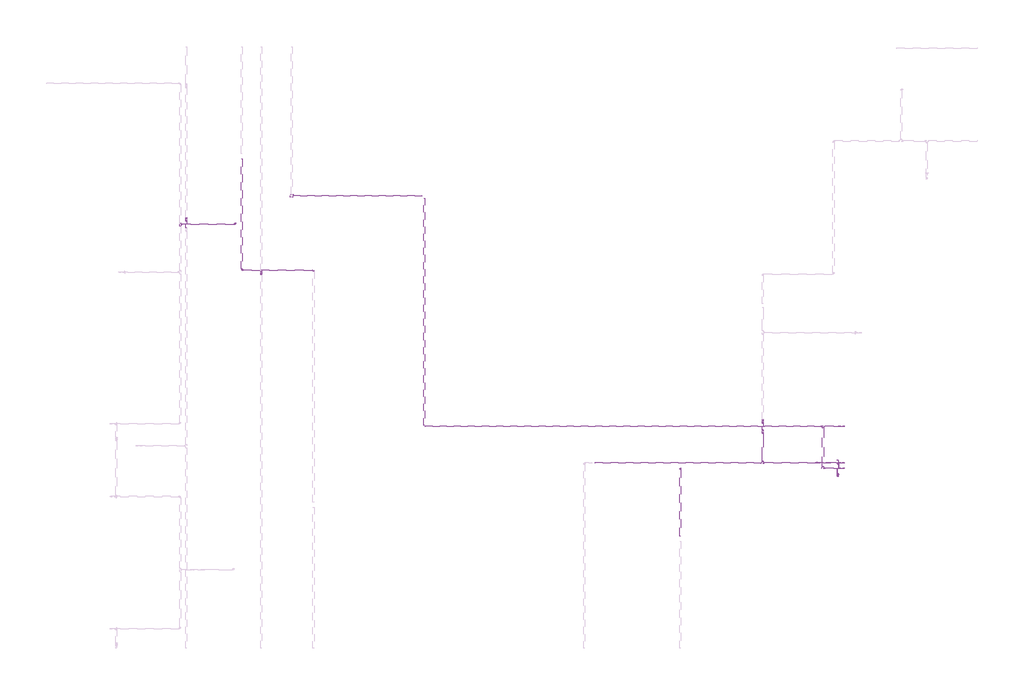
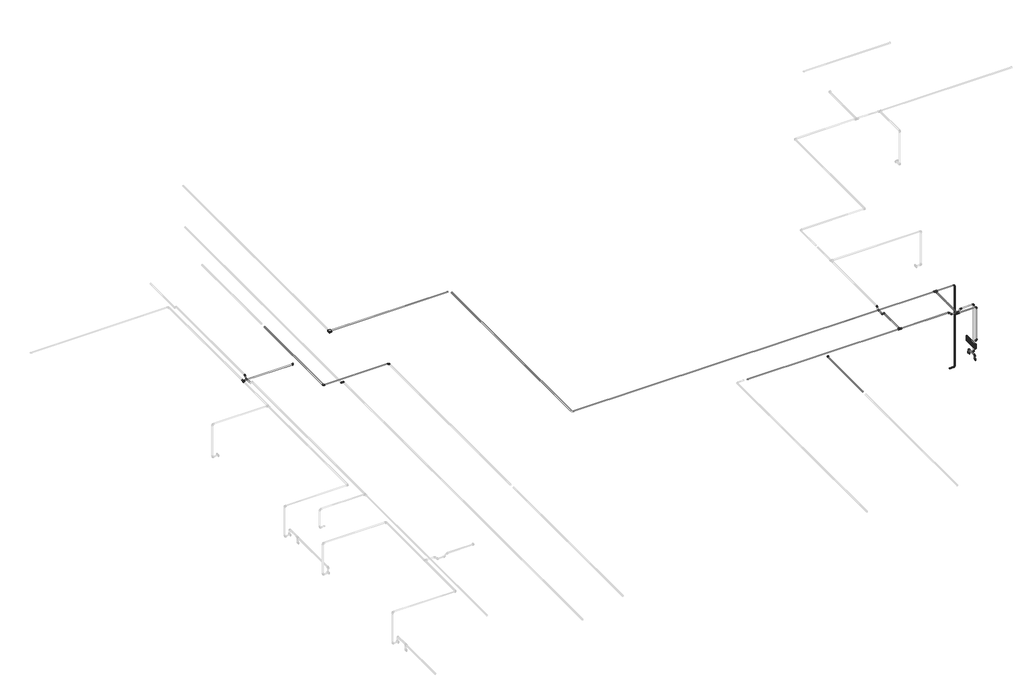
# One storey, part 7 of 40: 33 cable carrier segments, 28 cable carrier fittings, 2 alarms, 2 electric appliances.
"""IFC4 building model written with IfcOpenShell, lengths in millimetres."""

from ifc_helpers import new_model, si_unit, point, frame, frame_2d, origin, place, context, project, spatial, circle_curve, trimmed, segment, composite_curve, outline, extrude, transform, mapped, element, save
from ifc_brep_helpers import plane_surface, cylinder_surface, advanced_brep
from components import alarm_4b7e8fd8, alarm_a2247946, cable_carrier_fitting_69f1a801, cable_carrier_fitting_8122f9af, cable_carrier_fitting_8fd13dfc, electric_appliance_5961a143

model = new_model("IFC4")

# Units and contexts
model_context = context("Model", 3, world=origin())
ifc_project = project(units=[si_unit("LENGTHUNIT", "METRE", prefix="MILLI")], contexts=[model_context])

# Site, building, storey
site = spatial("IfcSite", under=ifc_project)
building = spatial("IfcBuilding", under=site)
storey = spatial("IfcBuildingStorey", under=building, Name="1 этаж", Elevation=0.0)

# Alarms
placement = place(None, origin())
alarm_shape = alarm_4b7e8fd8(model_context)
element("IfcAlarm", 1, ObjectType="RBZ_Оповещатель_Световой_Рубеж_ОПОП1-R3(грань) : ОПОП 1-R3 \"Выход\"", at=placement, inside=storey, context=model_context, shape_type="MappedRepresentation", body=[
    mapped(alarm_shape, transform((-3772.3240021, -5339.803508, 2500.0), x_axis=(0.0, -1.0, 0.0), y_axis=(0.0, 0.0, 1.0), z_axis=(-1.0, 0.0, 0.0))),
])
alarm_2_shape = alarm_a2247946(model_context)
element("IfcAlarm", 2, ObjectType="RBZ_ИзоляторШлейфа_Рубеж_ИЗ-1_прот.R3(плоскость) : ИЗ-1 прот.R3", at=placement, inside=storey, context=model_context, shape_type="MappedRepresentation", body=[
    mapped(alarm_2_shape, transform((-13519.8240031, -480.3629895, 3200.7498553), x_axis=(1.0, 0.0, 0.0), y_axis=(0.0, 1.0, 0.0), z_axis=(0.0, 0.0, 1.0))),
])

# Cable carrier fittings
cable_carrier_fitting_shape = cable_carrier_fitting_69f1a801(model_context)
element("IfcCableCarrierFitting", 3, ObjectType="ADSK_Поворот_Минимальный размер : Неспецифицируемый", at=placement, inside=storey, context=model_context, shape_type="MappedRepresentation", body=[
    mapped(cable_carrier_fitting_shape, transform((-13132.3240021, -1808.8628551, 3189.271248), x_axis=(0.0, 0.9999999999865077, 5.19468800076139e-06), y_axis=(-1.0000000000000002, 0.0, 0.0), z_axis=(0.0, -5.19468800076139e-06, 0.9999999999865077))),
])
element("IfcCableCarrierFitting", 4, ObjectType="ADSK_Поворот_Минимальный размер : Неспецифицируемый", at=placement, inside=storey, context=model_context, shape_type="MappedRepresentation", body=[
    mapped(cable_carrier_fitting_shape, transform((-14409.8240021, -1808.8628551, 3189.271248), x_axis=(0.0, -0.999999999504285, 3.148698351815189e-05), y_axis=(1.0, 0.0, 0.0), z_axis=(0.0, 3.148698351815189e-05, 0.999999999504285))),
])
element("IfcCableCarrierFitting", 5, ObjectType="ADSK_Поворот_Минимальный размер : Неспецифицируемый", at=placement, inside=storey, context=model_context, shape_type="MappedRepresentation", body=[
    mapped(cable_carrier_fitting_shape, transform((-6594.7740026, -5339.8035562, 3189.958066), x_axis=(-0.9999999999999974, 0.0, 7.345449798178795e-08), y_axis=(0.0, -1.0000000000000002, 0.0), z_axis=(7.345449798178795e-08, 0.0, 0.9999999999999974))),
])
element("IfcCableCarrierFitting", 6, ObjectType="ADSK_Поворот_Минимальный размер : Неспецифицируемый", at=placement, inside=storey, context=model_context, shape_type="MappedRepresentation", body=[
    mapped(cable_carrier_fitting_shape, transform((-3675.1241965, -4592.8629895, 1500.0), x_axis=(1.0, 0.0, 0.0), y_axis=(0.0, 0.0, 1.0), z_axis=(0.0, -1.0, 0.0))),
])
element("IfcCableCarrierFitting", 7, ObjectType="ADSK_Поворот_Минимальный размер : Неспецифицируемый", at=placement, inside=storey, context=model_context, shape_type="MappedRepresentation", body=[
    mapped(cable_carrier_fitting_shape, transform((-3675.1241965, -4592.8629895, 3190.0), x_axis=(0.0, 0.0, 1.0), y_axis=(-0.999999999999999, 4.740856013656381e-08, 0.0), z_axis=(-4.740856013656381e-08, -0.999999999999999, 0.0))),
])
element("IfcCableCarrierFitting", 8, ObjectType="ADSK_Поворот_Минимальный размер : Неспецифицируемый", at=placement, inside=storey, context=model_context, shape_type="MappedRepresentation", body=[
    mapped(cable_carrier_fitting_shape, transform((-3675.1241965, -5339.803508, 2500.0), x_axis=(1.0, 0.0, 0.0), y_axis=(0.0, 0.0, 1.0), z_axis=(0.0, -1.0, 0.0))),
])
element("IfcCableCarrierFitting", 9, ObjectType="ADSK_Поворот_Минимальный размер : Неспецифицируемый", at=placement, inside=storey, context=model_context, shape_type="MappedRepresentation", body=[
    mapped(cable_carrier_fitting_shape, transform((-3675.1241965, -5339.803508, 3190.0), x_axis=(0.0, 0.0, 1.0), y_axis=(-0.9999999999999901, -1.409108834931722e-07, 0.0), z_axis=(1.409108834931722e-07, -0.9999999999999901, 0.0))),
])
element("IfcCableCarrierFitting", 10, ObjectType="ADSK_Поворот_Минимальный размер : Неспецифицируемый", at=placement, inside=storey, context=model_context, shape_type="MappedRepresentation", body=[
    mapped(cable_carrier_fitting_shape, transform((-3775.3240021, -5455.3629895, 2300.0), x_axis=(0.0, 0.0, 1.0), y_axis=(0.0, 1.0, 0.0), z_axis=(-1.0, 0.0, 0.0))),
])
element("IfcCableCarrierFitting", 11, ObjectType="ADSK_Поворот_Минимальный размер : Неспецифицируемый", at=placement, inside=storey, context=model_context, shape_type="MappedRepresentation", body=[
    mapped(cable_carrier_fitting_shape, transform((-3775.3240021, -5245.3629895, 2300.0), x_axis=(0.0, 0.0, 1.0), y_axis=(0.0, -1.0, 0.0), z_axis=(1.0, 0.0, 0.0))),
])
element("IfcCableCarrierFitting", 12, ObjectType="ADSK_Поворот_Минимальный размер : Неспецифицируемый", at=placement, inside=storey, context=model_context, shape_type="MappedRepresentation", body=[
    mapped(cable_carrier_fitting_shape, transform((-3675.1241965, -5245.3629895, 2212.0911237), x_axis=(1.0, 0.0, 0.0), y_axis=(0.0, 0.0, 1.0), z_axis=(0.0, -1.0, 0.0))),
])
element("IfcCableCarrierFitting", 13, ObjectType="ADSK_Поворот_Минимальный размер : Неспецифицируемый", at=placement, inside=storey, context=model_context, shape_type="MappedRepresentation", body=[
    mapped(cable_carrier_fitting_shape, transform((-3675.1241965, -5245.3629895, 3187.0), x_axis=(0.0, 0.0, 1.0), y_axis=(-1.0, 0.0, 0.0), z_axis=(0.0, -1.0, 0.0))),
])
element("IfcCableCarrierFitting", 14, ObjectType="ADSK_Поворот_Минимальный размер : Неспецифицируемый", at=placement, inside=storey, context=model_context, shape_type="MappedRepresentation", body=[
    mapped(cable_carrier_fitting_shape, transform((-14524.8240021, -992.9837348, 3166.0), x_axis=(1.0, 0.0, 0.0), y_axis=(0.0, 1.0, 0.0), z_axis=(0.0, 0.0, 1.0))),
])
cable_carrier_fitting_2_shape = cable_carrier_fitting_8122f9af(model_context)
element("IfcCableCarrierFitting", 15, ObjectType="ADSK_Поворот_Минимальный размер : Неспецифицируемый", at=placement, inside=storey, context=model_context, shape_type="MappedRepresentation", body=[
    mapped(cable_carrier_fitting_2_shape, transform((-15402.3240021, -926.4114635, 3130.0), x_axis=(0.0, 1.0, 0.0), y_axis=(0.0, 0.0, 1.0), z_axis=(1.0, 0.0, 0.0))),
])
element("IfcCableCarrierFitting", 16, ObjectType="ADSK_Поворот_Минимальный размер : Неспецифицируемый", at=placement, inside=storey, context=model_context, shape_type="MappedRepresentation", body=[
    mapped(cable_carrier_fitting_2_shape, transform((-3980.7517309, -5245.3629895, 3137.0), x_axis=(-0.7071067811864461, 0.0, -0.7071067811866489), y_axis=(-0.7071067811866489, 0.0, 0.7071067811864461), z_axis=(0.0, 1.0, 0.0))),
])
element("IfcCableCarrierFitting", 17, ObjectType="ADSK_Поворот_Минимальный размер : Неспецифицируемый", at=placement, inside=storey, context=model_context, shape_type="MappedRepresentation", body=[
    mapped(cable_carrier_fitting_2_shape, transform((-4113.8962734, -5245.3629895, 3137.0), x_axis=(-1.0, 0.0, 0.0), y_axis=(0.0, 0.0, 1.0), z_axis=(0.0, 1.0, 0.0))),
])
element("IfcCableCarrierFitting", 18, ObjectType="ADSK_Поворот_Минимальный размер : Неспецифицируемый", at=placement, inside=storey, context=model_context, shape_type="MappedRepresentation", body=[
    mapped(cable_carrier_fitting_2_shape, transform((-5122.3240021, -4526.290702, 3137.0), x_axis=(0.0, -0.707106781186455, -0.7071067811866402), y_axis=(0.0, -0.7071067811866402, 0.707106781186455), z_axis=(-1.0, 0.0, 0.0))),
])
element("IfcCableCarrierFitting", 19, ObjectType="ADSK_Поворот_Минимальный размер : Неспецифицируемый", at=placement, inside=storey, context=model_context, shape_type="MappedRepresentation", body=[
    mapped(cable_carrier_fitting_2_shape, transform((-5122.3240021, -4659.4352445, 3137.0), x_axis=(0.0, -1.0, 0.0), y_axis=(0.0, 0.0, 1.0), z_axis=(-1.0, 0.0, 0.0))),
])
element("IfcCableCarrierFitting", 20, ObjectType="ADSK_Поворот_Минимальный размер : Неспецифицируемый", at=placement, inside=storey, context=model_context, shape_type="MappedRepresentation", body=[
    mapped(cable_carrier_fitting_2_shape, transform((-4163.8962734, -5245.3629895, 3187.0), x_axis=(-0.7071067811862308, 0.0, 0.7071067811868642), y_axis=(-0.7071067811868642, 0.0, -0.7071067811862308), z_axis=(0.0, -1.0, 0.0))),
])
element("IfcCableCarrierFitting", 21, ObjectType="ADSK_Поворот_Минимальный размер : Неспецифицируемый", at=placement, inside=storey, context=model_context, shape_type="MappedRepresentation", body=[
    mapped(cable_carrier_fitting_2_shape, transform((-3930.7517309, -5245.3629895, 3187.0), x_axis=(0.7071067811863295, 0.0, 0.7071067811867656), y_axis=(0.7071067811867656, 0.0, -0.7071067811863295), z_axis=(0.0, 1.0, 0.0))),
])
element("IfcCableCarrierFitting", 22, ObjectType="ADSK_Поворот_Минимальный размер : Неспецифицируемый", at=placement, inside=storey, context=model_context, shape_type="MappedRepresentation", body=[
    mapped(cable_carrier_fitting_2_shape, transform((-5122.3240021, -4709.4352445, 3187.0), x_axis=(0.0, -0.7071067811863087, 0.7071067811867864), y_axis=(0.0, -0.7071067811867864, -0.7071067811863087), z_axis=(1.0, 0.0, 0.0))),
])
element("IfcCableCarrierFitting", 23, ObjectType="ADSK_Поворот_Минимальный размер : Неспецифицируемый", at=placement, inside=storey, context=model_context, shape_type="MappedRepresentation", body=[
    mapped(cable_carrier_fitting_2_shape, transform((-5122.3240021, -4476.290702, 3187.0), x_axis=(0.0, 0.7071067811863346, 0.7071067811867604), y_axis=(0.0, 0.7071067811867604, -0.7071067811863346), z_axis=(-1.0, 0.0, 0.0))),
])
element("IfcCableCarrierFitting", 24, ObjectType="ADSK_Поворот_Минимальный размер : Неспецифицируемый", at=placement, inside=storey, context=model_context, shape_type="MappedRepresentation", body=[
    mapped(cable_carrier_fitting_2_shape, transform((-15402.3240021, -876.4114635, 3180.0), x_axis=(0.0, 0.7071067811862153, 0.7071067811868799), y_axis=(0.0, 0.7071067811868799, -0.7071067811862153), z_axis=(-1.0, 0.0, 0.0))),
])
element("IfcCableCarrierFitting", 25, ObjectType="ADSK_Поворот_Минимальный размер : Неспецифицируемый", at=placement, inside=storey, context=model_context, shape_type="MappedRepresentation", body=[
    mapped(cable_carrier_fitting_2_shape, transform((-14061.8509929, -1828.8628551, 3130.0), x_axis=(0.0, -1.0, 0.0), y_axis=(0.0, 0.0, 1.0), z_axis=(-1.0, 0.0, 0.0))),
])
element("IfcCableCarrierFitting", 26, ObjectType="ADSK_Поворот_Минимальный размер : Неспецифицируемый", at=placement, inside=storey, context=model_context, shape_type="MappedRepresentation", body=[
    mapped(cable_carrier_fitting_2_shape, transform((-14061.8509929, -1878.8628551, 3180.0), x_axis=(0.0, -0.7071067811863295, 0.7071067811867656), y_axis=(0.0, -0.7071067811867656, -0.7071067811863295), z_axis=(1.0, 0.0, 0.0))),
])
cable_carrier_fitting_3_shape = cable_carrier_fitting_8fd13dfc(model_context)
element("IfcCableCarrierFitting", 27, ObjectType="ADSK_Тройник : ПВХ", at=placement, inside=storey, context=model_context, shape_type="MappedRepresentation", body=[
    mapped(cable_carrier_fitting_3_shape, transform((-4047.3240021, -5339.8035562, 3190.0), x_axis=(-1.0, 0.0, 0.0), y_axis=(0.0, -1.0, 0.0), z_axis=(0.0, 0.0, 1.0))),
])
element("IfcCableCarrierFitting", 28, ObjectType="ADSK_Тройник : ПВХ", at=placement, inside=storey, context=model_context, shape_type="MappedRepresentation", body=[
    mapped(cable_carrier_fitting_3_shape, transform((-4047.3240021, -4592.8629733, 3190.0), x_axis=(1.0, 0.0, 0.0), y_axis=(0.0, 1.0, 0.0), z_axis=(0.0, 0.0, 1.0))),
])
element("IfcCableCarrierFitting", 29, ObjectType="ADSK_Тройник : ПВХ", at=placement, inside=storey, context=model_context, shape_type="MappedRepresentation", body=[
    mapped(cable_carrier_fitting_3_shape, transform((-5122.3240021, -5245.3629895, 3187.0), x_axis=(-1.0, 0.0, 0.0), y_axis=(0.0, -1.0, 0.0), z_axis=(0.0, 0.0, 1.0))),
])
element("IfcCableCarrierFitting", 30, ObjectType="ADSK_Тройник : ПВХ", at=placement, inside=storey, context=model_context, shape_type="MappedRepresentation", body=[
    mapped(cable_carrier_fitting_3_shape, transform((-15509.3240021, -992.9837348, 3166.0), x_axis=(0.0, 1.0, 0.0), y_axis=(-1.0, 0.0, 0.0), z_axis=(0.0, 0.0, 1.0))),
])

# Cable carrier segments
element("IfcCableCarrierSegment", 31, ObjectType="Гофрированная труба", at=placement, inside=storey, context=model_context, shape_type="SweptSolid", body=[
    extrude(outline(composite_curve([segment(trimmed(circle_curve(frame_2d((-1808.8628551, 3189.271248)), 10.0), [point((-1798.8628551, 3189.2713))], [point((-1808.8628031, 3179.271248))], False, "CARTESIAN"), True, "CONTINUOUS"), segment(trimmed(circle_curve(frame_2d((-1808.8628551, 3189.271248)), 10.0), [point((-1808.8628031, 3179.271248))], [point((-1818.8628551, 3189.2711961))], False, "CARTESIAN"), True, "CONTINUOUS"), segment(trimmed(circle_curve(frame_2d((-1808.8628551, 3189.271248)), 10.0), [point((-1818.8628551, 3189.2711961))], [point((-1808.862907, 3199.271248))], False, "CARTESIAN"), True, "CONTINUOUS"), segment(trimmed(circle_curve(frame_2d((-1808.8628551, 3189.271248)), 10.0), [point((-1808.862907, 3199.271248))], [point((-1798.8628551, 3189.2713))], False, "CARTESIAN"), True, "CONTINUOUS")], self_intersect=False)), frame((-14388.8240021, 0.0, 0.0), z_axis=(1.0, 0.0, 0.0), x_axis=(0.0, 1.0, 0.0)), (0.0, 0.0, 1.0), 1235.5),
])
element("IfcCableCarrierSegment", 32, ObjectType="Гофрированная труба", at=placement, inside=storey, context=model_context, shape_type="SweptSolid", body=[
    extrude(outline(composite_curve([segment(trimmed(circle_curve(frame_2d((3189.2705868, -14409.8240021)), 10.0), [point((3189.2705868, -14399.8240021))], [point((3199.2705868, -14409.8240021))], False, "CARTESIAN"), True, "CONTINUOUS"), segment(trimmed(circle_curve(frame_2d((3189.2705868, -14409.8240021)), 10.0), [point((3199.2705868, -14409.8240021))], [point((3189.2705868, -14419.8240021))], False, "CARTESIAN"), True, "CONTINUOUS"), segment(trimmed(circle_curve(frame_2d((3189.2705868, -14409.8240021)), 10.0), [point((3189.2705868, -14419.8240021))], [point((3179.2705868, -14409.8240021))], False, "CARTESIAN"), True, "CONTINUOUS"), segment(trimmed(circle_curve(frame_2d((3189.2705868, -14409.8240021)), 10.0), [point((3179.2705868, -14409.8240021))], [point((3189.2705868, -14399.8240021))], False, "CARTESIAN"), True, "CONTINUOUS")], self_intersect=False)), frame((0.0, -1787.8628551, 0.0), z_axis=(0.0, 1.0, 0.0), x_axis=(0.0, 0.0, 1.0)), (0.0, 0.0, 1.0), 1965.9998656),
])
element("IfcCableCarrierSegment", 33, ObjectType="Гофрированная труба", at=placement, inside=storey, context=model_context, shape_type="SweptSolid", body=[
    extrude(outline(composite_curve([segment(trimmed(circle_curve(frame_2d((3189.9998553, -11157.3240021)), 10.0), [point((3189.9998555, -11147.3240021))], [point((3199.9998553, -11157.3240023))], False, "CARTESIAN"), True, "CONTINUOUS"), segment(trimmed(circle_curve(frame_2d((3189.9998553, -11157.3240021)), 10.0), [point((3199.9998553, -11157.3240023))], [point((3189.9998551, -11167.3240021))], False, "CARTESIAN"), True, "CONTINUOUS"), segment(trimmed(circle_curve(frame_2d((3189.9998553, -11157.3240021)), 10.0), [point((3189.9998551, -11167.3240021))], [point((3179.9998553, -11157.3240019))], False, "CARTESIAN"), True, "CONTINUOUS"), segment(trimmed(circle_curve(frame_2d((3189.9998553, -11157.3240021)), 10.0), [point((3179.9998553, -11157.3240019))], [point((3189.9998555, -11147.3240021))], False, "CARTESIAN"), True, "CONTINUOUS")], self_intersect=False)), frame((0.0, -4571.8629733, 0.0), z_axis=(0.0, 1.0, 0.0), x_axis=(0.0, 0.0, 1.0)), (0.0, 0.0, 1.0), 4044.9999838),
])
element("IfcCableCarrierSegment", 34, ObjectType="Гофрированная труба", at=placement, inside=storey, context=model_context, shape_type="SweptSolid", body=[
    extrude(outline(composite_curve([segment(trimmed(circle_curve(frame_2d((-480.3629895, 3189.9998553)), 10.0), [point((-490.3629895, 3189.9998553))], [point((-480.3629895, 3199.9998553))], False, "CARTESIAN"), True, "CONTINUOUS"), segment(trimmed(circle_curve(frame_2d((-480.3629895, 3189.9998553)), 10.0), [point((-480.3629895, 3199.9998553))], [point((-470.3629895, 3189.9998553))], False, "CARTESIAN"), True, "CONTINUOUS"), segment(trimmed(circle_curve(frame_2d((-480.3629895, 3189.9998553)), 10.0), [point((-470.3629895, 3189.9998553))], [point((-480.3629895, 3179.9998553))], False, "CARTESIAN"), True, "CONTINUOUS"), segment(trimmed(circle_curve(frame_2d((-480.3629895, 3189.9998553)), 10.0), [point((-480.3629895, 3179.9998553))], [point((-490.3629895, 3189.9998553))], False, "CARTESIAN"), True, "CONTINUOUS")], self_intersect=False)), frame((-13493.8240031, 0.0, 0.0), z_axis=(1.0, 0.0, 0.0), x_axis=(0.0, 1.0, 0.0)), (0.0, 0.0, 1.0), 2290.000001),
])
element("IfcCableCarrierSegment", 35, ObjectType="Гофрированная труба", at=placement, inside=storey, context=model_context, shape_type="SweptSolid", body=[
    extrude(outline(composite_curve([segment(trimmed(circle_curve(frame_2d((3189.958066, -6594.7740026)), 10.0), [point((3189.9580653, -6584.7740026))], [point((3199.958066, -6594.7740019))], False, "CARTESIAN"), True, "CONTINUOUS"), segment(trimmed(circle_curve(frame_2d((3189.958066, -6594.7740026)), 10.0), [point((3199.958066, -6594.7740019))], [point((3189.9580668, -6604.7740026))], False, "CARTESIAN"), True, "CONTINUOUS"), segment(trimmed(circle_curve(frame_2d((3189.958066, -6594.7740026)), 10.0), [point((3189.9580668, -6604.7740026))], [point((3179.958066, -6594.7740034))], False, "CARTESIAN"), True, "CONTINUOUS"), segment(trimmed(circle_curve(frame_2d((3189.958066, -6594.7740026)), 10.0), [point((3179.958066, -6594.7740034))], [point((3189.9580653, -6584.7740026))], False, "CARTESIAN"), True, "CONTINUOUS")], self_intersect=False)), frame((0.0, -6548.8629895, 0.0), z_axis=(0.0, 1.0, 0.0), x_axis=(0.0, 0.0, 1.0)), (0.0, 0.0, 1.0), 1188.0594332),
])
element("IfcCableCarrierSegment", 36, ObjectType="Гофрированная труба", at=placement, inside=storey, context=model_context, shape_type="AdvancedBrep", body=[
    advanced_brep(
    [(-4077.3240021, -4582.8629733, 3190.0), (-4077.3240023, -4592.8629733, 3200.0), (-4077.3240021, -4602.8629733, 3190.0), (-4077.3240019, -4592.8629733, 3180.0), (-11136.3240021, -4582.8629733, 3189.999855), (-11136.3240019, -4592.8629733, 3179.999855), (-11136.3240021, -4602.8629733, 3189.999855), (-11136.3240023, -4592.8629733, 3199.999855)],
    [
        (0, 1, circle_curve(frame((-4077.3240021, -4592.8629733, 3190.0), z_axis=(1.0, 0.0, 0.0), x_axis=(0.0, 1.0, 0.0)), 10.0)),
        (1, 2, circle_curve(frame((-4077.3240023, -4592.8629733, 3190.0), z_axis=(1.0, 0.0, 0.0), x_axis=(0.0, 1.0, 0.0)), 10.0)),
        (2, 3, circle_curve(frame((-4077.3240021, -4592.8629733, 3190.0), z_axis=(1.0, 0.0, 0.0), x_axis=(0.0, 1.0, 0.0)), 10.0)),
        (3, 0, circle_curve(frame((-4077.3240019, -4592.8629733, 3190.0), z_axis=(1.0, 0.0, 0.0), x_axis=(0.0, 1.0, 0.0)), 10.0)),
        (4, 5, circle_curve(frame((-11136.3240021, -4592.8629733, 3190.0), z_axis=(-1.0, 0.0, 0.0), x_axis=(0.0, 1.0, 0.0)), 10.0)),
        (5, 6, circle_curve(frame((-11136.3240019, -4592.8629733, 3190.0), z_axis=(-1.0, 0.0, 0.0), x_axis=(0.0, 1.0, 0.0)), 10.000145)),
        (6, 7, circle_curve(frame((-11136.3240021, -4592.8629733, 3190.0), z_axis=(-1.0, 0.0, 0.0), x_axis=(0.0, 1.0, 0.0)), 10.0)),
        (7, 4, circle_curve(frame((-11136.3240023, -4592.8629733, 3190.0), z_axis=(-1.0, 0.0, 0.0), x_axis=(0.0, 1.0, 0.0)), 9.999855)),
        (0, 4),
        (7, 1),
        (6, 2),
        (5, 3),
    ],
    [
        plane_surface(frame((-4077.3240019, -4592.8629733, 3180.0), z_axis=(0.9999999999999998, 0.0, 2.0541529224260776e-08), x_axis=(0.0, -1.0, 0.0))),
        plane_surface(frame((-11136.3240019, -4592.8629733, 3179.999855), z_axis=(-0.9999999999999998, 0.0, -2.054155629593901e-08), x_axis=(0.0, -1.0, 0.0))),
        cylinder_surface(frame((-4077.3240021, -4592.8629733, 3190.0), z_axis=(1.0, 0.0, 0.0), x_axis=(0.0, 1.0, 0.0)), 10.0),
    ],
    [
        (0, [[1, 2, 3, 4]]),
        (1, [[5, 6, 7, 8]]),
        (2, [[-1, 9, -8, 10]]),
        (2, [[-2, -10, -7, 11]]),
        (2, [[-3, -11, -6, 12]]),
        (2, [[-4, -12, -5, -9]]),
    ],
),
])
element("IfcCableCarrierSegment", 37, ObjectType="Гофрированная труба", at=placement, inside=storey, context=model_context, shape_type="SweptSolid", body=[
    extrude(outline(composite_curve([segment(trimmed(circle_curve(frame_2d((3190.0, -4047.3240021)), 10.0), [point((3190.0, -4057.3240021))], [point((3180.0, -4047.3240021))], False, "CARTESIAN"), True, "CONTINUOUS"), segment(trimmed(circle_curve(frame_2d((3190.0, -4047.3240021)), 10.0), [point((3180.0, -4047.3240021))], [point((3190.0, -4037.3240021))], False, "CARTESIAN"), True, "CONTINUOUS"), segment(trimmed(circle_curve(frame_2d((3190.0, -4047.3240021)), 10.0), [point((3190.0, -4037.3240021))], [point((3200.0, -4047.3240021))], False, "CARTESIAN"), True, "CONTINUOUS"), segment(trimmed(circle_curve(frame_2d((3190.0, -4047.3240021)), 10.0), [point((3200.0, -4047.3240021))], [point((3190.0, -4057.3240021))], False, "CARTESIAN"), True, "CONTINUOUS")], self_intersect=False)), frame((0.0, -5309.8035562, 0.0), z_axis=(0.0, 1.0, 0.0), x_axis=(0.0, 0.0, 1.0)), (0.0, 0.0, 1.0), 686.940583),
])
element("IfcCableCarrierSegment", 38, ObjectType="Гофрированная труба", at=placement, inside=storey, context=model_context, shape_type="SweptSolid", body=[
    extrude(outline(composite_curve([segment(trimmed(circle_curve(frame_2d((0.0, -10.0)), 10.0), [point((-10.0, -10.0))], [point((0.0, 0.0))], False, "CARTESIAN"), True, "CONTINUOUS"), segment(trimmed(circle_curve(frame_2d((0.0, -10.0)), 10.0), [point((0.0, 0.0))], [point((10.0, -10.0))], False, "CARTESIAN"), True, "CONTINUOUS"), segment(trimmed(circle_curve(frame_2d((0.0, -10.0)), 10.0), [point((10.0, -10.0))], [point((0.0, -20.0))], False, "CARTESIAN"), True, "CONTINUOUS"), segment(trimmed(circle_curve(frame_2d((0.0, -10.0)), 10.0), [point((0.0, -20.0))], [point((-10.0, -10.0))], False, "CARTESIAN"), True, "CONTINUOUS")], self_intersect=False)), frame((-3696.1241965, -4592.8629885, 3180.0), z_axis=(-0.9999999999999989, 4.740855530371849e-08, 0.0), x_axis=(4.740855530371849e-08, 0.9999999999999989, 0.0)), (0.0, 0.0, 1.0), 321.1998056),
])
element("IfcCableCarrierSegment", 39, ObjectType="Гофрированная труба", at=placement, inside=storey, context=model_context, shape_type="SweptSolid", body=[
    extrude(outline(composite_curve([segment(trimmed(circle_curve(frame_2d((-4592.8629895, 1500.0)), 10.0), [point((-4602.8629895, 1500.0))], [point((-4592.8629895, 1510.0))], False, "CARTESIAN"), True, "CONTINUOUS"), segment(trimmed(circle_curve(frame_2d((-4592.8629895, 1500.0)), 10.0), [point((-4592.8629895, 1510.0))], [point((-4582.8629895, 1500.0))], False, "CARTESIAN"), True, "CONTINUOUS"), segment(trimmed(circle_curve(frame_2d((-4592.8629895, 1500.0)), 10.0), [point((-4582.8629895, 1500.0))], [point((-4592.8629895, 1490.0))], False, "CARTESIAN"), True, "CONTINUOUS"), segment(trimmed(circle_curve(frame_2d((-4592.8629895, 1500.0)), 10.0), [point((-4592.8629895, 1490.0))], [point((-4602.8629895, 1500.0))], False, "CARTESIAN"), True, "CONTINUOUS")], self_intersect=False)), frame((-3772.3240021, 0.0, 0.0), z_axis=(1.0, 0.0, 0.0), x_axis=(0.0, 1.0, 0.0)), (0.0, 0.0, 1.0), 76.1998056),
])
element("IfcCableCarrierSegment", 40, ObjectType="Гофрированная труба", at=placement, inside=storey, context=model_context, shape_type="SweptSolid", body=[
    extrude(outline(composite_curve([segment(trimmed(circle_curve(frame_2d((-3675.1241965, -4592.8629895)), 10.0), [point((-3685.1241965, -4592.8629895))], [point((-3675.1241965, -4582.8629895))], False, "CARTESIAN"), True, "CONTINUOUS"), segment(trimmed(circle_curve(frame_2d((-3675.1241965, -4592.8629895)), 10.0), [point((-3675.1241965, -4582.8629895))], [point((-3665.1241965, -4592.8629895))], False, "CARTESIAN"), True, "CONTINUOUS"), segment(trimmed(circle_curve(frame_2d((-3675.1241965, -4592.8629895)), 10.0), [point((-3665.1241965, -4592.8629895))], [point((-3675.1241965, -4602.8629895))], False, "CARTESIAN"), True, "CONTINUOUS"), segment(trimmed(circle_curve(frame_2d((-3675.1241965, -4592.8629895)), 10.0), [point((-3675.1241965, -4602.8629895))], [point((-3685.1241965, -4592.8629895))], False, "CARTESIAN"), True, "CONTINUOUS")], self_intersect=False)), frame((0.0, 0.0, 1521.0), z_axis=(0.0, 0.0, 1.0), x_axis=(1.0, 0.0, 0.0)), (0.0, 0.0, 1.0), 1648.0),
])
element("IfcCableCarrierSegment", 41, ObjectType="Гофрированная труба", at=placement, inside=storey, context=model_context, shape_type="SweptSolid", body=[
    extrude(outline(composite_curve([segment(trimmed(circle_curve(frame_2d((0.0, -10.0)), 10.0), [point((-10.0, -10.0))], [point((0.0, 0.0))], False, "CARTESIAN"), True, "CONTINUOUS"), segment(trimmed(circle_curve(frame_2d((0.0, -10.0)), 10.0), [point((0.0, 0.0))], [point((10.0, -10.0))], False, "CARTESIAN"), True, "CONTINUOUS"), segment(trimmed(circle_curve(frame_2d((0.0, -10.0)), 10.0), [point((10.0, -10.0))], [point((0.0, -20.0))], False, "CARTESIAN"), True, "CONTINUOUS"), segment(trimmed(circle_curve(frame_2d((0.0, -10.0)), 10.0), [point((0.0, -20.0))], [point((-10.0, -10.0))], False, "CARTESIAN"), True, "CONTINUOUS")], self_intersect=False)), frame((-4017.3240021, -5339.8035562, 3180.0), z_axis=(0.9999999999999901, 1.409108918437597e-07, 0.0), x_axis=(1.409108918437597e-07, -0.9999999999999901, 0.0)), (0.0, 0.0, 1.0), 321.1998056),
])
element("IfcCableCarrierSegment", 42, ObjectType="Гофрированная труба", at=placement, inside=storey, context=model_context, shape_type="SweptSolid", body=[
    extrude(outline(composite_curve([segment(trimmed(circle_curve(frame_2d((-5339.803508, 2500.0)), 10.0), [point((-5349.803508, 2500.0))], [point((-5339.803508, 2510.0))], False, "CARTESIAN"), True, "CONTINUOUS"), segment(trimmed(circle_curve(frame_2d((-5339.803508, 2500.0)), 10.0), [point((-5339.803508, 2510.0))], [point((-5329.803508, 2500.0))], False, "CARTESIAN"), True, "CONTINUOUS"), segment(trimmed(circle_curve(frame_2d((-5339.803508, 2500.0)), 10.0), [point((-5329.803508, 2500.0))], [point((-5339.803508, 2490.0))], False, "CARTESIAN"), True, "CONTINUOUS"), segment(trimmed(circle_curve(frame_2d((-5339.803508, 2500.0)), 10.0), [point((-5339.803508, 2490.0))], [point((-5349.803508, 2500.0))], False, "CARTESIAN"), True, "CONTINUOUS")], self_intersect=False)), frame((-3772.3240021, 0.0, 0.0), z_axis=(1.0, 0.0, 0.0), x_axis=(0.0, 1.0, 0.0)), (0.0, 0.0, 1.0), 76.1998056),
])
element("IfcCableCarrierSegment", 43, ObjectType="Гофрированная труба", at=placement, inside=storey, context=model_context, shape_type="SweptSolid", body=[
    extrude(outline(composite_curve([segment(trimmed(circle_curve(frame_2d((-3675.1241965, -5339.803508)), 10.0), [point((-3685.1241965, -5339.803508))], [point((-3675.1241965, -5329.803508))], False, "CARTESIAN"), True, "CONTINUOUS"), segment(trimmed(circle_curve(frame_2d((-3675.1241965, -5339.803508)), 10.0), [point((-3675.1241965, -5329.803508))], [point((-3665.1241965, -5339.803508))], False, "CARTESIAN"), True, "CONTINUOUS"), segment(trimmed(circle_curve(frame_2d((-3675.1241965, -5339.803508)), 10.0), [point((-3665.1241965, -5339.803508))], [point((-3675.1241965, -5349.803508))], False, "CARTESIAN"), True, "CONTINUOUS"), segment(trimmed(circle_curve(frame_2d((-3675.1241965, -5339.803508)), 10.0), [point((-3675.1241965, -5349.803508))], [point((-3685.1241965, -5339.803508))], False, "CARTESIAN"), True, "CONTINUOUS")], self_intersect=False)), frame((0.0, 0.0, 2521.0), z_axis=(0.0, 0.0, 1.0), x_axis=(1.0, 0.0, 0.0)), (0.0, 0.0, 1.0), 648.0),
])
element("IfcCableCarrierSegment", 44, ObjectType="Гофрированная труба", at=placement, inside=storey, context=model_context, shape_type="SweptSolid", body=[
    extrude(outline(composite_curve([segment(trimmed(circle_curve(frame_2d((3137.0, -5122.3240021)), 10.0), [point((3137.0, -5132.3240021))], [point((3127.0, -5122.3240021))], False, "CARTESIAN"), True, "CONTINUOUS"), segment(trimmed(circle_curve(frame_2d((3137.0, -5122.3240021)), 10.0), [point((3127.0, -5122.3240021))], [point((3137.0, -5112.3240021))], False, "CARTESIAN"), True, "CONTINUOUS"), segment(trimmed(circle_curve(frame_2d((3137.0, -5122.3240021)), 10.0), [point((3137.0, -5112.3240021))], [point((3147.0, -5122.3240021))], False, "CARTESIAN"), True, "CONTINUOUS"), segment(trimmed(circle_curve(frame_2d((3137.0, -5122.3240021)), 10.0), [point((3147.0, -5122.3240021))], [point((3137.0, -5132.3240021))], False, "CARTESIAN"), True, "CONTINUOUS")], self_intersect=False)), frame((0.0, -4650.1509733, 0.0), z_axis=(0.0, 1.0, 0.0), x_axis=(0.0, 0.0, 1.0)), (0.0, 0.0, 1.0), 114.576),
])
element("IfcCableCarrierSegment", 45, ObjectType="Гофрированная труба", at=placement, inside=storey, context=model_context, shape_type="SweptSolid", body=[
    extrude(outline(composite_curve([segment(trimmed(circle_curve(frame_2d((2300.0, -3775.3240021)), 10.0), [point((2300.0, -3765.3240021))], [point((2310.0, -3775.3240021))], False, "CARTESIAN"), True, "CONTINUOUS"), segment(trimmed(circle_curve(frame_2d((2300.0, -3775.3240021)), 10.0), [point((2310.0, -3775.3240021))], [point((2300.0, -3785.3240021))], False, "CARTESIAN"), True, "CONTINUOUS"), segment(trimmed(circle_curve(frame_2d((2300.0, -3775.3240021)), 10.0), [point((2300.0, -3785.3240021))], [point((2290.0, -3775.3240021))], False, "CARTESIAN"), True, "CONTINUOUS"), segment(trimmed(circle_curve(frame_2d((2300.0, -3775.3240021)), 10.0), [point((2290.0, -3775.3240021))], [point((2300.0, -3765.3240021))], False, "CARTESIAN"), True, "CONTINUOUS")], self_intersect=False)), frame((0.0, -5434.3629895, 0.0), z_axis=(0.0, 1.0, 0.0), x_axis=(0.0, 0.0, 1.0)), (0.0, 0.0, 1.0), 168.0),
])
element("IfcCableCarrierSegment", 46, ObjectType="Гофрированная труба", at=placement, inside=storey, context=model_context, shape_type="SweptSolid", body=[
    extrude(outline(composite_curve([segment(trimmed(circle_curve(frame_2d((-3775.3240021, -5245.3629895)), 10.0), [point((-3785.3240021, -5245.3629895))], [point((-3775.3240021, -5235.3629895))], False, "CARTESIAN"), True, "CONTINUOUS"), segment(trimmed(circle_curve(frame_2d((-3775.3240021, -5245.3629895)), 10.0), [point((-3775.3240021, -5235.3629895))], [point((-3765.3240021, -5245.3629895))], False, "CARTESIAN"), True, "CONTINUOUS"), segment(trimmed(circle_curve(frame_2d((-3775.3240021, -5245.3629895)), 10.0), [point((-3765.3240021, -5245.3629895))], [point((-3775.3240021, -5255.3629895))], False, "CARTESIAN"), True, "CONTINUOUS"), segment(trimmed(circle_curve(frame_2d((-3775.3240021, -5245.3629895)), 10.0), [point((-3775.3240021, -5255.3629895))], [point((-3785.3240021, -5245.3629895))], False, "CARTESIAN"), True, "CONTINUOUS")], self_intersect=False)), frame((0.0, 0.0, 2241.1207114), z_axis=(0.0, 0.0, 1.0), x_axis=(1.0, 0.0, 0.0)), (0.0, 0.0, 1.0), 37.8792886),
])
element("IfcCableCarrierSegment", 47, ObjectType="Гофрированная труба", at=placement, inside=storey, context=model_context, shape_type="SweptSolid", body=[
    extrude(outline(composite_curve([segment(trimmed(circle_curve(frame_2d((-3775.3240021, -5455.3629895)), 10.0), [point((-3785.3240021, -5455.3629895))], [point((-3775.3240021, -5445.3629895))], False, "CARTESIAN"), True, "CONTINUOUS"), segment(trimmed(circle_curve(frame_2d((-3775.3240021, -5455.3629895)), 10.0), [point((-3775.3240021, -5445.3629895))], [point((-3765.3240021, -5455.3629895))], False, "CARTESIAN"), True, "CONTINUOUS"), segment(trimmed(circle_curve(frame_2d((-3775.3240021, -5455.3629895)), 10.0), [point((-3765.3240021, -5455.3629895))], [point((-3775.3240021, -5465.3629895))], False, "CARTESIAN"), True, "CONTINUOUS"), segment(trimmed(circle_curve(frame_2d((-3775.3240021, -5455.3629895)), 10.0), [point((-3775.3240021, -5465.3629895))], [point((-3785.3240021, -5455.3629895))], False, "CARTESIAN"), True, "CONTINUOUS")], self_intersect=False)), frame((0.0, 0.0, 2241.1207114), z_axis=(0.0, 0.0, 1.0), x_axis=(1.0, 0.0, 0.0)), (0.0, 0.0, 1.0), 37.8792886),
])
element("IfcCableCarrierSegment", 48, ObjectType="Гофрированная труба", at=placement, inside=storey, context=model_context, shape_type="SweptSolid", body=[
    extrude(outline(composite_curve([segment(trimmed(circle_curve(frame_2d((3166.0, -14524.8240021)), 10.0), [point((3166.0, -14534.8240021))], [point((3156.0, -14524.8240021))], False, "CARTESIAN"), True, "CONTINUOUS"), segment(trimmed(circle_curve(frame_2d((3166.0, -14524.8240021)), 10.0), [point((3156.0, -14524.8240021))], [point((3166.0, -14514.8240021))], False, "CARTESIAN"), True, "CONTINUOUS"), segment(trimmed(circle_curve(frame_2d((3166.0, -14524.8240021)), 10.0), [point((3166.0, -14514.8240021))], [point((3176.0, -14524.8240021))], False, "CARTESIAN"), True, "CONTINUOUS"), segment(trimmed(circle_curve(frame_2d((3166.0, -14524.8240021)), 10.0), [point((3176.0, -14524.8240021))], [point((3166.0, -14534.8240021))], False, "CARTESIAN"), True, "CONTINUOUS")], self_intersect=False)), frame((0.0, -971.9837348, 0.0), z_axis=(0.0, 1.0, 0.0), x_axis=(0.0, 0.0, 1.0)), (0.0, 0.0, 1.0), 4.1207453),
])
element("IfcCableCarrierSegment", 49, ObjectType="Гофрированная труба", at=placement, inside=storey, context=model_context, shape_type="SweptSolid", body=[
    extrude(outline(composite_curve([segment(trimmed(circle_curve(frame_2d((3130.0, -15402.3240021)), 10.0), [point((3130.0, -15392.3240021))], [point((3140.0, -15402.3240021))], False, "CARTESIAN"), True, "CONTINUOUS"), segment(trimmed(circle_curve(frame_2d((3130.0, -15402.3240021)), 10.0), [point((3140.0, -15402.3240021))], [point((3130.0, -15412.3240021))], False, "CARTESIAN"), True, "CONTINUOUS"), segment(trimmed(circle_curve(frame_2d((3130.0, -15402.3240021)), 10.0), [point((3130.0, -15412.3240021))], [point((3120.0, -15402.3240021))], False, "CARTESIAN"), True, "CONTINUOUS"), segment(trimmed(circle_curve(frame_2d((3130.0, -15402.3240021)), 10.0), [point((3120.0, -15402.3240021))], [point((3130.0, -15392.3240021))], False, "CARTESIAN"), True, "CONTINUOUS")], self_intersect=False)), frame((0.0, -1050.2717348, 0.0), z_axis=(0.0, 1.0, 0.0), x_axis=(0.0, 0.0, 1.0)), (0.0, 0.0, 1.0), 114.576),
])
element("IfcCableCarrierSegment", 50, ObjectType="Гофрированная труба", at=placement, inside=storey, context=model_context, shape_type="SweptSolid", body=[
    extrude(outline(composite_curve([segment(trimmed(circle_curve(frame_2d((0.0, 10.0000001)), 10.0), [point((10.0, 10.0000001))], [point((0.0, 0.0))], False, "CARTESIAN"), True, "CONTINUOUS"), segment(trimmed(circle_curve(frame_2d((0.0, 10.0000001)), 10.0), [point((0.0, 0.0))], [point((-10.0, 10.0000001))], False, "CARTESIAN"), True, "CONTINUOUS"), segment(trimmed(circle_curve(frame_2d((0.0, 10.0000001)), 10.0), [point((-10.0, 10.0000001))], [point((0.0, 20.0000001))], False, "CARTESIAN"), True, "CONTINUOUS"), segment(trimmed(circle_curve(frame_2d((0.0, 10.0000001)), 10.0), [point((0.0, 20.0000001))], [point((10.0, 10.0000001))], False, "CARTESIAN"), True, "CONTINUOUS")], self_intersect=False)), frame((-15402.3240021, -926.9175602, 3143.636039), z_axis=(0.0, 0.7071067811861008, 0.7071067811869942), x_axis=(1.0, 0.0, 0.0)), (0.0, 0.0, 1.0), 52.1421356),
])
element("IfcCableCarrierSegment", 51, ObjectType="Гофрированная труба", at=placement, inside=storey, context=model_context, shape_type="SweptSolid", body=[
    extrude(outline(composite_curve([segment(trimmed(circle_curve(frame_2d((-5245.3629895, 3187.0)), 10.0), [point((-5235.3629895, 3187.0))], [point((-5245.3629895, 3177.0))], False, "CARTESIAN"), True, "CONTINUOUS"), segment(trimmed(circle_curve(frame_2d((-5245.3629895, 3187.0)), 10.0), [point((-5245.3629895, 3177.0))], [point((-5255.3629895, 3187.0))], False, "CARTESIAN"), True, "CONTINUOUS"), segment(trimmed(circle_curve(frame_2d((-5245.3629895, 3187.0)), 10.0), [point((-5255.3629895, 3187.0))], [point((-5245.3629895, 3197.0))], False, "CARTESIAN"), True, "CONTINUOUS"), segment(trimmed(circle_curve(frame_2d((-5245.3629895, 3187.0)), 10.0), [point((-5245.3629895, 3197.0))], [point((-5235.3629895, 3187.0))], False, "CARTESIAN"), True, "CONTINUOUS")], self_intersect=False)), frame((-8104.7519408, 0.0, 0.0), z_axis=(1.0, 0.0, 0.0), x_axis=(0.0, 1.0, 0.0)), (0.0, 0.0, 1.0), 2952.4279387),
])
element("IfcCableCarrierSegment", 52, ObjectType="Гофрированная труба", at=placement, inside=storey, context=model_context, shape_type="SweptSolid", body=[
    extrude(outline(composite_curve([segment(trimmed(circle_curve(frame_2d((-5245.3629895, 2212.0911237)), 10.0), [point((-5255.3629895, 2212.0911237))], [point((-5245.3629895, 2222.0911237))], False, "CARTESIAN"), True, "CONTINUOUS"), segment(trimmed(circle_curve(frame_2d((-5245.3629895, 2212.0911237)), 10.0), [point((-5245.3629895, 2222.0911237))], [point((-5235.3629895, 2212.0911237))], False, "CARTESIAN"), True, "CONTINUOUS"), segment(trimmed(circle_curve(frame_2d((-5245.3629895, 2212.0911237)), 10.0), [point((-5235.3629895, 2212.0911237))], [point((-5245.3629895, 2202.0911237))], False, "CARTESIAN"), True, "CONTINUOUS"), segment(trimmed(circle_curve(frame_2d((-5245.3629895, 2212.0911237)), 10.0), [point((-5245.3629895, 2202.0911237))], [point((-5255.3629895, 2212.0911237))], False, "CARTESIAN"), True, "CONTINUOUS")], self_intersect=False)), frame((-3772.3240021, 0.0, 0.0), z_axis=(1.0, 0.0, 0.0), x_axis=(0.0, 1.0, 0.0)), (0.0, 0.0, 1.0), 76.1998056),
])
element("IfcCableCarrierSegment", 53, ObjectType="Гофрированная труба", at=placement, inside=storey, context=model_context, shape_type="SweptSolid", body=[
    extrude(outline(composite_curve([segment(trimmed(circle_curve(frame_2d((-3675.1241965, -5245.3629895)), 10.0), [point((-3685.1241965, -5245.3629895))], [point((-3675.1241965, -5235.3629895))], False, "CARTESIAN"), True, "CONTINUOUS"), segment(trimmed(circle_curve(frame_2d((-3675.1241965, -5245.3629895)), 10.0), [point((-3675.1241965, -5235.3629895))], [point((-3665.1241965, -5245.3629895))], False, "CARTESIAN"), True, "CONTINUOUS"), segment(trimmed(circle_curve(frame_2d((-3675.1241965, -5245.3629895)), 10.0), [point((-3665.1241965, -5245.3629895))], [point((-3675.1241965, -5255.3629895))], False, "CARTESIAN"), True, "CONTINUOUS"), segment(trimmed(circle_curve(frame_2d((-3675.1241965, -5245.3629895)), 10.0), [point((-3675.1241965, -5255.3629895))], [point((-3685.1241965, -5245.3629895))], False, "CARTESIAN"), True, "CONTINUOUS")], self_intersect=False)), frame((0.0, 0.0, 2233.0911237), z_axis=(0.0, 0.0, 1.0), x_axis=(1.0, 0.0, 0.0)), (0.0, 0.0, 1.0), 932.9088763),
])
element("IfcCableCarrierSegment", 54, ObjectType="Гофрированная труба", at=placement, inside=storey, context=model_context, shape_type="SweptSolid", body=[
    extrude(outline(composite_curve([segment(trimmed(circle_curve(frame_2d((-5245.3629895, 3137.0)), 10.0), [point((-5235.3629895, 3137.0))], [point((-5245.3629895, 3127.0))], False, "CARTESIAN"), True, "CONTINUOUS"), segment(trimmed(circle_curve(frame_2d((-5245.3629895, 3137.0)), 10.0), [point((-5245.3629895, 3127.0))], [point((-5255.3629895, 3137.0))], False, "CARTESIAN"), True, "CONTINUOUS"), segment(trimmed(circle_curve(frame_2d((-5245.3629895, 3137.0)), 10.0), [point((-5255.3629895, 3137.0))], [point((-5245.3629895, 3147.0))], False, "CARTESIAN"), True, "CONTINUOUS"), segment(trimmed(circle_curve(frame_2d((-5245.3629895, 3137.0)), 10.0), [point((-5245.3629895, 3147.0))], [point((-5235.3629895, 3137.0))], False, "CARTESIAN"), True, "CONTINUOUS")], self_intersect=False)), frame((-4104.6120021, 0.0, 0.0), z_axis=(1.0, 0.0, 0.0), x_axis=(0.0, 1.0, 0.0)), (0.0, 0.0, 1.0), 114.576),
])
element("IfcCableCarrierSegment", 55, ObjectType="Гофрированная труба", at=placement, inside=storey, context=model_context, shape_type="SweptSolid", body=[
    extrude(outline(composite_curve([segment(trimmed(circle_curve(frame_2d((-5245.3629895, 3187.0)), 10.0), [point((-5255.3629895, 3187.0))], [point((-5245.3629895, 3197.0))], False, "CARTESIAN"), True, "CONTINUOUS"), segment(trimmed(circle_curve(frame_2d((-5245.3629895, 3187.0)), 10.0), [point((-5245.3629895, 3197.0))], [point((-5235.3629895, 3187.0))], False, "CARTESIAN"), True, "CONTINUOUS"), segment(trimmed(circle_curve(frame_2d((-5245.3629895, 3187.0)), 10.0), [point((-5235.3629895, 3187.0))], [point((-5245.3629895, 3177.0))], False, "CARTESIAN"), True, "CONTINUOUS"), segment(trimmed(circle_curve(frame_2d((-5245.3629895, 3187.0)), 10.0), [point((-5245.3629895, 3177.0))], [point((-5255.3629895, 3187.0))], False, "CARTESIAN"), True, "CONTINUOUS")], self_intersect=False)), frame((-3921.4674596, 0.0, 0.0), z_axis=(1.0, 0.0, 0.0), x_axis=(0.0, 1.0, 0.0)), (0.0, 0.0, 1.0), 225.3432631),
])
element("IfcCableCarrierSegment", 56, ObjectType="Гофрированная труба", at=placement, inside=storey, context=model_context, shape_type="SweptSolid", body=[
    extrude(outline(composite_curve([segment(trimmed(circle_curve(frame_2d((0.0, -10.0)), 10.0), [point((0.0, 0.0))], [point((10.0000001, -10.0))], False, "CARTESIAN"), True, "CONTINUOUS"), segment(trimmed(circle_curve(frame_2d((0.0, -10.0)), 10.0), [point((10.0000001, -10.0))], [point((0.0, -20.0))], False, "CARTESIAN"), True, "CONTINUOUS"), segment(trimmed(circle_curve(frame_2d((0.0, -10.0)), 10.0), [point((0.0, -20.0))], [point((-10.0, -10.0))], False, "CARTESIAN"), True, "CONTINUOUS"), segment(trimmed(circle_curve(frame_2d((0.0, -10.0)), 10.0), [point((-10.0, -10.0))], [point((0.0, 0.0))], False, "CARTESIAN"), True, "CONTINUOUS")], self_intersect=False)), frame((-3974.1867597, -5235.3629895, 3143.5649712), z_axis=(0.7071067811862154, 0.0, 0.7071067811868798), x_axis=(0.7071067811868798, 0.0, -0.7071067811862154)), (0.0, 0.0, 1.0), 52.1421356),
])
element("IfcCableCarrierSegment", 57, ObjectType="Гофрированная труба", at=placement, inside=storey, context=model_context, shape_type="SweptSolid", body=[
    extrude(outline(composite_curve([segment(trimmed(circle_curve(frame_2d((-5245.3629895, 3187.0)), 10.0), [point((-5235.3629895, 3187.0))], [point((-5245.3629895, 3177.0))], False, "CARTESIAN"), True, "CONTINUOUS"), segment(trimmed(circle_curve(frame_2d((-5245.3629895, 3187.0)), 10.0), [point((-5245.3629895, 3177.0))], [point((-5255.3629895, 3187.0))], False, "CARTESIAN"), True, "CONTINUOUS"), segment(trimmed(circle_curve(frame_2d((-5245.3629895, 3187.0)), 10.0), [point((-5255.3629895, 3187.0))], [point((-5245.3629895, 3197.0))], False, "CARTESIAN"), True, "CONTINUOUS"), segment(trimmed(circle_curve(frame_2d((-5245.3629895, 3187.0)), 10.0), [point((-5245.3629895, 3197.0))], [point((-5235.3629895, 3187.0))], False, "CARTESIAN"), True, "CONTINUOUS")], self_intersect=False)), frame((-5092.3240021, 0.0, 0.0), z_axis=(1.0, 0.0, 0.0), x_axis=(0.0, 1.0, 0.0)), (0.0, 0.0, 1.0), 919.1434575),
])
element("IfcCableCarrierSegment", 58, ObjectType="Гофрированная труба", at=placement, inside=storey, context=model_context, shape_type="SweptSolid", body=[
    extrude(outline(composite_curve([segment(trimmed(circle_curve(frame_2d((0.0, 10.0)), 10.0), [point((0.0, 20.0))], [point((10.0, 10.0))], False, "CARTESIAN"), True, "CONTINUOUS"), segment(trimmed(circle_curve(frame_2d((0.0, 10.0)), 10.0), [point((10.0, 10.0))], [point((0.0, 0.0))], False, "CARTESIAN"), True, "CONTINUOUS"), segment(trimmed(circle_curve(frame_2d((0.0, 10.0)), 10.0), [point((0.0, 0.0))], [point((-10.0000001, 10.0))], False, "CARTESIAN"), True, "CONTINUOUS"), segment(trimmed(circle_curve(frame_2d((0.0, 10.0)), 10.0), [point((-10.0000001, 10.0))], [point((0.0, 20.0))], False, "CARTESIAN"), True, "CONTINUOUS")], self_intersect=False)), frame((-4120.4612445, -5255.3629895, 3143.5649712), z_axis=(-0.7071067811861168, 0.0, 0.7071067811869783), x_axis=(0.7071067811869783, 0.0, 0.7071067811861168)), (0.0, 0.0, 1.0), 52.1421356),
])
element("IfcCableCarrierSegment", 59, ObjectType="Гофрированная труба", at=placement, inside=storey, context=model_context, shape_type="SweptSolid", body=[
    extrude(outline(composite_curve([segment(trimmed(circle_curve(frame_2d((0.0, -10.0000001)), 10.0), [point((-10.0, -10.0000001))], [point((0.0, 0.0))], False, "CARTESIAN"), True, "CONTINUOUS"), segment(trimmed(circle_curve(frame_2d((0.0, -10.0000001)), 10.0), [point((0.0, 0.0))], [point((10.0, -10.0000001))], False, "CARTESIAN"), True, "CONTINUOUS"), segment(trimmed(circle_curve(frame_2d((0.0, -10.0000001)), 10.0), [point((10.0, -10.0000001))], [point((0.0, -20.0000001))], False, "CARTESIAN"), True, "CONTINUOUS"), segment(trimmed(circle_curve(frame_2d((0.0, -10.0000001)), 10.0), [point((0.0, -20.0000001))], [point((-10.0, -10.0000001))], False, "CARTESIAN"), True, "CONTINUOUS")], self_intersect=False)), frame((-5122.3240021, -4512.654663, 3136.4939033), z_axis=(0.0, 0.7071067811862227, 0.7071067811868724), x_axis=(1.0, 0.0, 0.0)), (0.0, 0.0, 1.0), 52.1421356),
])
element("IfcCableCarrierSegment", 60, ObjectType="Гофрированная труба", at=placement, inside=storey, context=model_context, shape_type="SweptSolid", body=[
    extrude(outline(composite_curve([segment(trimmed(circle_curve(frame_2d((3187.0, -5122.3240021)), 10.0), [point((3187.0, -5132.3240021))], [point((3177.0, -5122.3240021))], False, "CARTESIAN"), True, "CONTINUOUS"), segment(trimmed(circle_curve(frame_2d((3187.0, -5122.3240021)), 10.0), [point((3177.0, -5122.3240021))], [point((3187.0, -5112.3240021))], False, "CARTESIAN"), True, "CONTINUOUS"), segment(trimmed(circle_curve(frame_2d((3187.0, -5122.3240021)), 10.0), [point((3187.0, -5112.3240021))], [point((3197.0, -5122.3240021))], False, "CARTESIAN"), True, "CONTINUOUS"), segment(trimmed(circle_curve(frame_2d((3187.0, -5122.3240021)), 10.0), [point((3197.0, -5122.3240021))], [point((3187.0, -5132.3240021))], False, "CARTESIAN"), True, "CONTINUOUS")], self_intersect=False)), frame((0.0, -5215.3629895, 0.0), z_axis=(0.0, 1.0, 0.0), x_axis=(0.0, 0.0, 1.0)), (0.0, 0.0, 1.0), 496.6434737),
])
element("IfcCableCarrierSegment", 61, ObjectType="Гофрированная труба", at=placement, inside=storey, context=model_context, shape_type="SweptSolid", body=[
    extrude(outline(composite_curve([segment(trimmed(circle_curve(frame_2d((0.0, 10.0000001)), 10.0), [point((-10.0, 10.0000001))], [point((0.0, 20.0000001))], False, "CARTESIAN"), True, "CONTINUOUS"), segment(trimmed(circle_curve(frame_2d((0.0, 10.0000001)), 10.0), [point((0.0, 20.0000001))], [point((10.0, 10.0000001))], False, "CARTESIAN"), True, "CONTINUOUS"), segment(trimmed(circle_curve(frame_2d((0.0, 10.0000001)), 10.0), [point((10.0, 10.0000001))], [point((0.0, 0.0))], False, "CARTESIAN"), True, "CONTINUOUS"), segment(trimmed(circle_curve(frame_2d((0.0, 10.0000001)), 10.0), [point((0.0, 0.0))], [point((-10.0, 10.0000001))], False, "CARTESIAN"), True, "CONTINUOUS")], self_intersect=False)), frame((-5122.3240021, -4673.0712835, 3136.4939033), z_axis=(0.0, -0.7071067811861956, 0.7071067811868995), x_axis=(1.0, 0.0, 0.0)), (0.0, 0.0, 1.0), 52.1421356),
])
element("IfcCableCarrierSegment", 62, ObjectType="Гофрированная труба", at=placement, inside=storey, context=model_context, shape_type="SweptSolid", body=[
    extrude(outline(composite_curve([segment(trimmed(circle_curve(frame_2d((-992.9837348, 3166.0)), 10.0), [point((-982.9837348, 3166.0))], [point((-992.9837348, 3156.0))], False, "CARTESIAN"), True, "CONTINUOUS"), segment(trimmed(circle_curve(frame_2d((-992.9837348, 3166.0)), 10.0), [point((-992.9837348, 3156.0))], [point((-1002.9837348, 3166.0))], False, "CARTESIAN"), True, "CONTINUOUS"), segment(trimmed(circle_curve(frame_2d((-992.9837348, 3166.0)), 10.0), [point((-1002.9837348, 3166.0))], [point((-992.9837348, 3176.0))], False, "CARTESIAN"), True, "CONTINUOUS"), segment(trimmed(circle_curve(frame_2d((-992.9837348, 3166.0)), 10.0), [point((-992.9837348, 3176.0))], [point((-982.9837348, 3166.0))], False, "CARTESIAN"), True, "CONTINUOUS")], self_intersect=False)), frame((-15479.3240021, 0.0, 0.0), z_axis=(1.0, 0.0, 0.0), x_axis=(0.0, 1.0, 0.0)), (0.0, 0.0, 1.0), 933.5),
])
element("IfcCableCarrierSegment", 63, ObjectType="Гофрированная труба", at=placement, inside=storey, context=model_context, shape_type="SweptSolid", body=[
    extrude(outline(composite_curve([segment(trimmed(circle_curve(frame_2d((0.0, 10.0000001)), 10.0), [point((-10.0, 10.0000001))], [point((0.0, 20.0000001))], False, "CARTESIAN"), True, "CONTINUOUS"), segment(trimmed(circle_curve(frame_2d((0.0, 10.0000001)), 10.0), [point((0.0, 20.0000001))], [point((10.0, 10.0000001))], False, "CARTESIAN"), True, "CONTINUOUS"), segment(trimmed(circle_curve(frame_2d((0.0, 10.0000001)), 10.0), [point((10.0, 10.0000001))], [point((0.0, 0.0))], False, "CARTESIAN"), True, "CONTINUOUS"), segment(trimmed(circle_curve(frame_2d((0.0, 10.0000001)), 10.0), [point((0.0, 0.0))], [point((-10.0, 10.0000001))], False, "CARTESIAN"), True, "CONTINUOUS")], self_intersect=False)), frame((-14061.8509929, -1842.4988941, 3129.4939033), z_axis=(0.0, -0.707106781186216, 0.7071067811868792), x_axis=(1.0, 0.0, 0.0)), (0.0, 0.0, 1.0), 52.1421356),
])

# Electric appliances
electric_appliance_shape = electric_appliance_5961a143(model_context)
element("IfcElectricAppliance", 64, ObjectType="RBZ_Извещатель_ОхранныйМагнитоуправляемый _Рубеж_ИО 10220-2(грань) : ИО 10220-2", at=placement, inside=storey, context=model_context, shape_type="MappedRepresentation", body=[
    mapped(electric_appliance_shape, transform((-3772.3240021, -5455.3629895, 2224.0), x_axis=(0.0, 1.0, 0.0), y_axis=(0.0, 0.0, -1.0), z_axis=(-1.0, 0.0, 0.0))),
])
element("IfcElectricAppliance", 65, ObjectType="RBZ_Извещатель_ОхранныйМагнитоуправляемый _Рубеж_ИО 10220-2(грань) : ИО 10220-2", at=placement, inside=storey, context=model_context, shape_type="MappedRepresentation", body=[
    mapped(electric_appliance_shape, transform((-3772.3240021, -5245.3629895, 2224.0), x_axis=(0.0, 1.0, 0.0), y_axis=(0.0, 0.0, -1.0), z_axis=(-1.0, 0.0, 0.0))),
])

save(model, "model.ifc")
